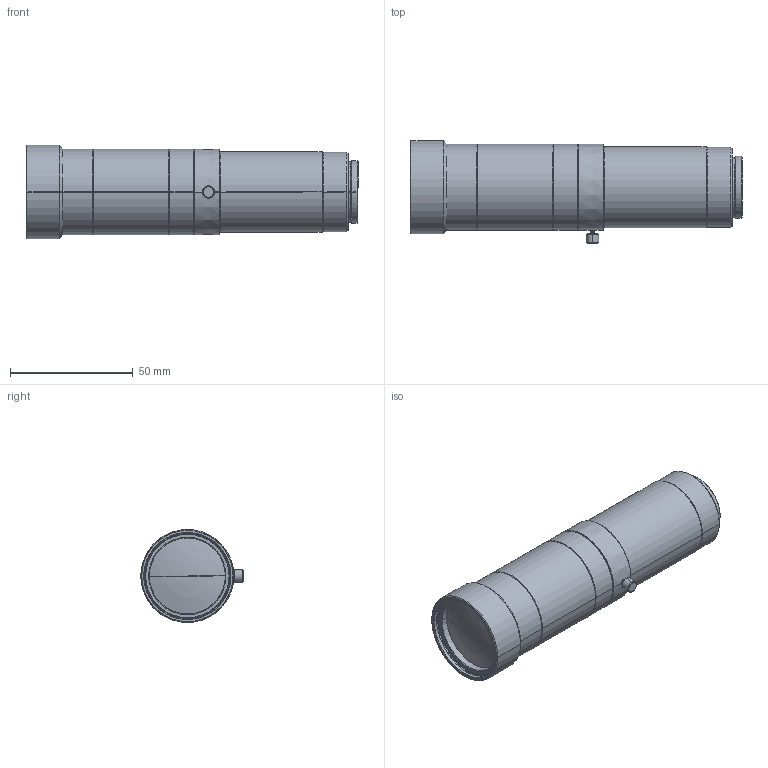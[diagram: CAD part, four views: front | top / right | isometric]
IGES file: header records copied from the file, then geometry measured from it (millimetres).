
Start section: SolidWorks IGES file using analytic representation for surfaces
Global section: file name: C:\Users\uchikawa_vst\Documents\作業フォルダ_内川\1000_開発_作業\1110_3Dモデル\THV15-110(VS-THV1.5-110_S)\VS-THV1.5-110_S.IGS; native system: SolidWorks 2018; preprocessor: SolidWorks 2018; author: uchikawa_vst; date: 200426.200459; units: millimetre
Bounding box: 135.42 x 41.8 x 38 mm (x, y, z)
Surface area: 23062.3 mm2 (no closed solid volume)
Topology: 0 solids, 0 shells, 139 faces, 2304 edges, 2302 vertices
Faces by surface type: revolution 120, bspline 19
